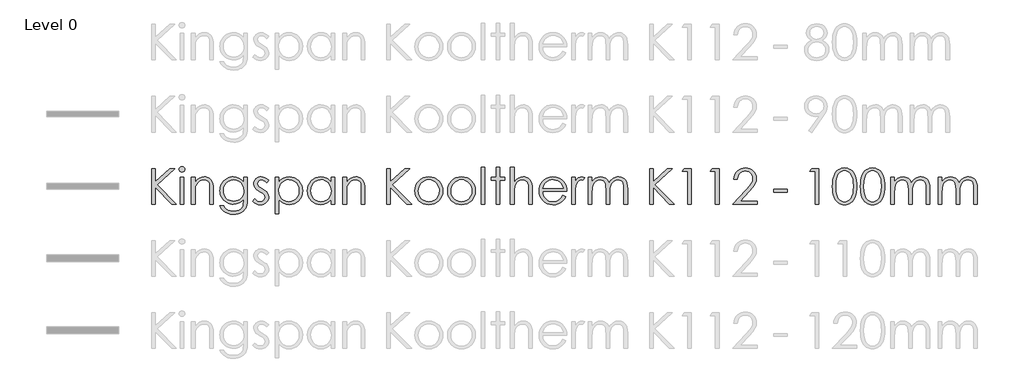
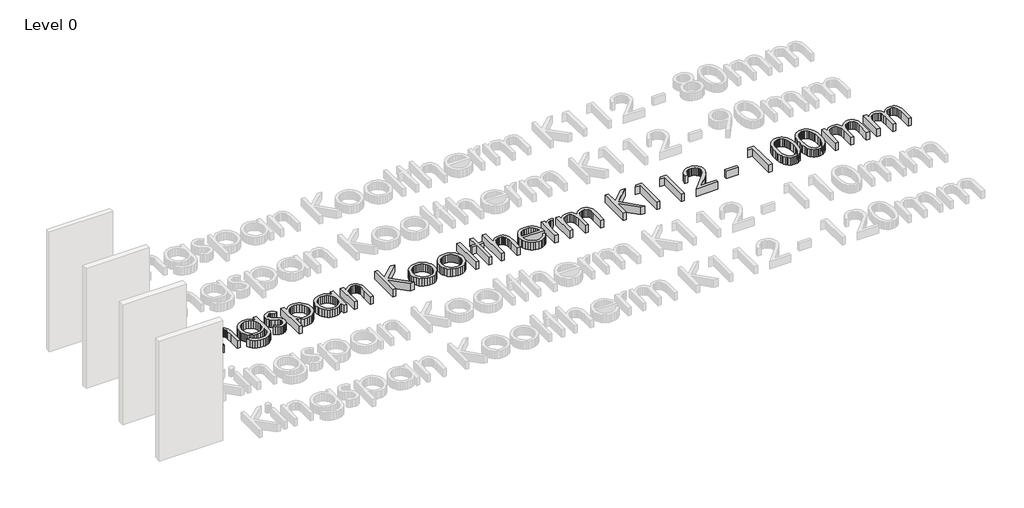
# One storey, part 6 of 14: 1 proxy.
"""IFC4 building model written with IfcOpenShell, lengths in millimetres."""

from ifc_helpers import new_model, si_unit, origin, origin_with_axes, place, context, project, spatial, polyline, outline, extrude, element, save

model = new_model("IFC4")

# Units and contexts
model_context = context("Model", 3, world=origin())
ifc_project = project(units=[si_unit("LENGTHUNIT", "METRE", prefix="MILLI")], contexts=[model_context])

# Site, building, storey
site = spatial("IfcSite", under=ifc_project)
building = spatial("IfcBuilding", under=site)
storey = spatial("IfcBuildingStorey", under=building, Name="Level 0", Elevation=0.0)

# Proxy
placement = place(None, origin())
element("IfcBuildingElementProxy", 1, Name="600mm KI_CenturyGothic", ObjectType="600mm KI_CenturyGothic", at=placement, inside=storey, context=model_context, shape_type="SweptSolid", body=[
    extrude(outline(polyline([(-3852.2663848, -3699.1034017), (-3792.944575, -3699.1034017), (-3792.944575, -3918.316027), (-3555.1938841, -3699.1034017), (-3471.6181051, -3699.1034017), (-3760.9664119, -3966.0515459), (-3441.9572002, -4292.3214999), (-3520.8984627, -4292.3214999), (-3792.944575, -4014.0960325), (-3792.944575, -4292.3214999), (-3852.2663848, -4292.3214999), (-3852.2663848, -3699.1034017)])), origin_with_axes(), (0.0, 0.0, 1.0), 150.0),
    extrude(outline(polyline([(-3348.1854852, -3669.4424967), (-3329.145347, -3672.7252792), (-3313.1176445, -3682.5736265), (-3302.226531, -3697.0178693), (-3298.5961598, -3714.088338), (-3302.226531, -3730.9270809), (-3313.1176445, -3745.2940817), (-3329.145347, -3755.142429), (-3348.1854852, -3758.4252115), (-3366.9938975, -3755.142429), (-3382.9443581, -3745.2940817), (-3393.8354717, -3730.9270809), (-3397.4658428, -3714.088338), (-3393.8354717, -3697.0178693), (-3382.9443581, -3682.5736265), (-3366.9938975, -3672.7252792), (-3348.1854852, -3669.4424967)])), origin_with_axes(), (0.0, 0.0, 1.0), 150.0),
    extrude(outline(polyline([(-3377.6919062, -3847.4079262), (-3318.3700964, -3847.4079262), (-3318.3700964, -4292.3214999), (-3377.6919062, -4292.3214999), (-3377.6919062, -3847.4079262)])), origin_with_axes(), (0.0, 0.0, 1.0), 150.0),
    extrude(outline(polyline([(-3189.8395084, -3847.4079262), (-3130.5176986, -3847.4079262), (-3130.5176986, -3926.5036726), (-3096.9946967, -3886.9944204), (-3060.0730495, -3859.303185), (-3019.7141359, -3842.9665147), (-2975.879335, -3837.5209579), (-2953.4357238, -3839.0995901), (-2932.2955704, -3843.8354865), (-2912.4588747, -3851.7286472), (-2893.9256368, -3862.7790723), (-2877.212412, -3876.5039994), (-2862.835756, -3892.4206667), (-2841.0921499, -3930.8292213), (-2833.6238199, -3955.2087086), (-2828.2892984, -3985.5551357), (-2824.0216812, -4064.1488095), (-2824.0216812, -4292.3214999), (-2883.343491, -4292.3214999), (-2883.343491, -4079.1337458), (-2883.343491, -3976.092998), (-2884.7290183, -3955.2956057), (-2889.8125035, -3937.2403023), (-2898.2849788, -3921.9270877), (-2910.1464442, -3909.355962), (-2924.7403432, -3899.5558909), (-2941.4101193, -3892.5558401), (-2980.977303, -3886.9557994), (-3005.3471351, -3889.1137461), (-3028.4038541, -3895.5875862), (-3050.1474602, -3906.3773197), (-3070.5779533, -3921.4829466), (-3088.6622225, -3939.7651482), (-3103.3671568, -3960.084606), (-3114.6927562, -3982.44132), (-3122.6390208, -4006.8352901), (-3128.5480292, -4053.9142525), (-3130.5176986, -4128.4141035), (-3130.5176986, -4292.3214999), (-3189.8395084, -4292.3214999), (-3189.8395084, -3847.4079262)])), origin_with_axes(), (0.0, 0.0, 1.0), 150.0),
    extrude(outline(polyline([(-2319.7862977, -3847.4079262), (-2260.4644879, -3847.4079262), (-2260.4644879, -4198.395301), (-2264.5196897, -4278.6496765), (-2269.588692, -4309.4499001), (-2276.6852953, -4334.0321474), (-2289.9371156, -4362.6454585), (-2307.2924139, -4387.7732271), (-2328.7511904, -4409.4154531), (-2354.3134448, -4427.5721366), (-2383.3226209, -4441.9343098), (-2415.122162, -4452.1930049), (-2449.7120682, -4458.348222), (-2487.0923395, -4460.3999611), (-2541.0458345, -4456.3833802), (-2589.206184, -4444.3336376), (-2630.260275, -4425.5059147), (-2662.8949946, -4401.1553932), (-2690.2000204, -4367.8061856), (-2715.2650299, -4321.9824048), (-2655.94322, -4321.9824048), (-2642.4355358, -4343.151524), (-2627.0933555, -4361.3951046), (-2609.9166791, -4376.7131468), (-2590.9055067, -4389.1056506), (-2569.7894914, -4398.6691682), (-2546.2982864, -4405.5002523), (-2492.1903075, -4410.9651195), (-2438.5071593, -4405.6354257), (-2415.083541, -4398.9733084), (-2393.93856, -4389.6463441), (-2359.6624492, -4365.6047903), (-2336.8567664, -4336.1176798), (-2329.3884364, -4317.4782342), (-2324.0539149, -4293.7697863), (-2319.7862977, -4231.1458835), (-2319.7862977, -4208.4367532), (-2354.757586, -4244.2190818), (-2396.6420279, -4270.6165148), (-2443.392712, -4286.8952536), (-2492.9627269, -4292.3214999), (-2522.4063889, -4290.4242447), (-2550.9521133, -4284.7324793), (-2578.5999001, -4275.2462036), (-2605.3497494, -4261.9654175), (-2630.1540674, -4245.4742634), (-2651.9652601, -4226.3568832), (-2670.7833277, -4204.6132772), (-2686.6082702, -4180.2434451), (-2699.1456025, -4153.9280817), (-2708.1008399, -4126.3478816), (-2713.4739824, -4097.5028447), (-2715.2650299, -4067.392971), (-2713.3967404, -4037.1044753), (-2707.7918722, -4007.8780563), (-2698.4504251, -3979.713714), (-2685.3723991, -3952.6114483), (-2668.9971079, -3927.4257483), (-2649.7638648, -3905.0111029), (-2627.67267, -3885.367512), (-2602.7235235, -3868.4949758), (-2575.9833294, -3854.943843), (-2548.5189922, -3845.2644624), (-2520.3305117, -3839.456834), (-2491.4178881, -3837.5209579), (-2444.5320306, -3842.4644421), (-2400.8903346, -3857.2948945), (-2359.6045177, -3883.8661218), (-2319.7862977, -3924.0319306), (-2319.7862977, -3847.4079262)]), holes=[polyline([(-2484.1571458, -3886.9557994), (-2529.0154023, -3892.9806707), (-2570.5908765, -3911.0552847), (-2606.2187212, -3939.7699758), (-2633.2340897, -3977.7150788), (-2650.2659375, -4021.9940208), (-2655.94322, -4069.7102292), (-2653.0080263, -4105.6229036), (-2644.2024452, -4138.2817613), (-2629.5264766, -4167.6868023), (-2608.9801206, -4193.8380266), (-2583.7606272, -4215.296803), (-2555.0652466, -4230.6245004), (-2522.8939786, -4239.8211189), (-2487.2468234, -4242.8866584), (-2451.3244937, -4239.845257), (-2419.1001219, -4230.7210528), (-2390.573708, -4215.5140459), (-2365.7452519, -4194.2242363), (-2345.6382095, -4167.9812872), (-2331.2760363, -4137.9148621), (-2322.6587323, -4104.024961), (-2319.7862977, -4066.3115838), (-2325.0773706, -4017.6105407), (-2340.9505892, -3974.3936754), (-2366.4983608, -3938.1672056), (-2400.8130926, -3910.4373492), (-2440.9982119, -3892.8261869), (-2484.1571458, -3886.9557994)])]), origin_with_axes(), (0.0, 0.0, 1.0), 150.0),
    extrude(outline(polyline([(-1904.5336289, -3898.6965743), (-1940.9918246, -3936.390641), (-1962.9575012, -3914.7628978), (-1984.6721416, -3899.3145098), (-2006.1357456, -3890.045477), (-2027.3483133, -3886.9557994), (-2052.181597, -3891.6289368), (-2073.2300256, -3905.6483489), (-2087.5970264, -3925.8857371), (-2092.3860267, -3949.212803), (-2088.4466878, -3970.7633042), (-2076.628671, -3991.2324183), (-2052.0657341, -4013.400855), (-2010.2006027, -4039.122421), (-1958.3326401, -4071.9888664), (-1939.8428507, -4087.8138088), (-1926.315856, -4103.2332311), (-1909.9791857, -4135.9065716), (-1904.5336289, -4172.4420092), (-1906.9474396, -4198.5884059), (-1914.1888714, -4222.6492701), (-1926.2579245, -4244.624602), (-1943.1545989, -4264.5144015), (-1963.6719892, -4281.0055557), (-1986.6031901, -4292.7849515), (-2011.9482016, -4299.852589), (-2039.7070237, -4302.2084682), (-2077.4397114, -4298.3270607), (-2113.3958344, -4286.6828383), (-2145.4512394, -4268.2027042), (-2171.4817731, -4243.8135617), (-2135.7959969, -4203.3387852), (-2114.0041146, -4224.9665283), (-2091.5749863, -4240.4149163), (-2068.5086121, -4249.6839491), (-2044.8049918, -4252.7736267), (-2013.637869, -4247.1349651), (-1987.4914724, -4230.2189802), (-1969.7644472, -4205.6560434), (-1963.8554388, -4177.0765256), (-1967.7561567, -4153.2860081), (-1979.4583106, -4132.2762005), (-2005.0253927, -4110.5712154), (-2050.2119275, -4083.7682622), (-2099.762632, -4053.1032121), (-2117.441381, -4037.9444814), (-2130.3890611, -4022.9016136), (-2146.3781427, -3990.7689666), (-2151.7078365, -3954.310771), (-2149.5305794, -3930.2643896), (-2142.9988078, -3908.3325063), (-2132.1125219, -3888.5151211), (-2116.8717217, -3870.812234), (-2098.309518, -3856.2473007), (-2077.4590218, -3845.8437769), (-2054.3202332, -3839.6016627), (-2028.8931521, -3837.5209579), (-1997.9481, -3841.3444339), (-1966.9064954, -3852.814862), (-1935.7683384, -3871.9322421), (-1904.5336289, -3898.6965743)])), origin_with_axes(), (0.0, 0.0, 1.0), 150.0),
    extrude(outline(polyline([(-1795.7769776, -3847.4079262), (-1736.4551678, -3847.4079262), (-1736.4551678, -3928.5119631), (-1700.9238754, -3888.2689124), (-1660.4490989, -3859.9211205), (-1614.9922173, -3843.1209986), (-1564.5146096, -3837.5209579), (-1520.0618732, -3841.7596094), (-1478.9305402, -3854.4755637), (-1441.1206107, -3875.668821), (-1406.6320845, -3905.3393811), (-1377.9077381, -3940.9768811), (-1357.3903478, -3980.070958), (-1345.0799137, -4022.6216116), (-1340.9764356, -4068.628842), (-1345.0412927, -4115.5291824), (-1357.235864, -4158.7508754), (-1377.5601494, -4198.293921), (-1406.014149, -4234.1583192), (-1440.2130179, -4263.9302594), (-1477.7719111, -4285.1959309), (-1518.6908288, -4297.9553339), (-1562.9697708, -4302.2084682), (-1612.6170277, -4296.743601), (-1658.0545988, -4280.3489992), (-1699.3211052, -4253.1019049), (-1736.4551678, -4215.07956), (-1736.4551678, -4450.5129928), (-1795.7769776, -4450.5129928), (-1795.7769776, -3847.4079262)]), holes=[polyline([(-1568.5311905, -3886.9557994), (-1602.5852307, -3890.2530647), (-1633.8392507, -3900.1448607), (-1662.2932503, -3916.6311872), (-1687.9472295, -3939.7120444), (-1709.1694525, -3967.6977647), (-1724.3281832, -3998.8986808), (-1733.4234216, -4033.3147926), (-1736.4551678, -4070.9461002), (-1731.048232, -4119.8016272), (-1714.8274246, -4163.4819442), (-1688.5265441, -4200.3263495), (-1652.8793888, -4228.6741414), (-1611.4390881, -4246.7487554), (-1567.7587711, -4252.7736267), (-1525.0632888, -4246.7101344), (-1485.0326535, -4228.5196576), (-1450.2544701, -4199.4187567), (-1423.3163435, -4160.6239924), (-1406.05277, -4115.9588407), (-1400.2982454, -4069.2467775), (-1405.9948385, -4022.3029886), (-1423.0846177, -3977.8695627), (-1449.8103289, -3939.5189395), (-1484.414718, -3910.8235589), (-1524.7157001, -3892.9227393), (-1568.5311905, -3886.9557994)])]), origin_with_axes(), (0.0, 0.0, 1.0), 150.0),
    extrude(outline(polyline([(-807.0801472, -3847.4079262), (-807.0801472, -4292.3214999), (-866.401957, -4292.3214999), (-866.401957, -4216.4699149), (-903.4780882, -4254.3184655), (-944.8797679, -4281.0441767), (-990.4525125, -4296.9173953), (-1040.0418379, -4302.2084682), (-1084.3159523, -4297.9553339), (-1125.2203871, -4285.1959309), (-1162.7551422, -4263.9302594), (-1196.9202178, -4234.1583192), (-1225.340424, -4198.293921), (-1245.6405713, -4158.7508754), (-1257.8206597, -4115.5291824), (-1261.8806892, -4068.628842), (-1257.7820388, -4022.6216116), (-1245.4860875, -3980.070958), (-1224.9928353, -3940.9768811), (-1196.3022822, -3905.3393811), (-1161.8475494, -3875.668821), (-1124.061758, -3854.4755637), (-1082.9449079, -3841.7596094), (-1038.4969991, -3837.5209579), (-987.7490446, -3843.1209986), (-942.0990581, -3859.9211205), (-921.2051134, -3872.6081091), (-901.6242816, -3888.2689124), (-866.401957, -3928.5119631), (-866.401957, -3847.4079262), (-807.0801472, -3847.4079262)]), holes=[polyline([(-1034.3259343, -3886.9557994), (-1078.1414247, -3892.9227393), (-1118.4424068, -3910.8235589), (-1153.0467959, -3939.5189395), (-1179.7725071, -3977.8695627), (-1196.8622863, -4022.3029886), (-1202.5588794, -4069.2467775), (-1196.8043548, -4115.9588407), (-1179.5407813, -4160.6239924), (-1152.6026548, -4199.4187567), (-1117.8244713, -4228.5196576), (-1077.6779731, -4246.7101344), (-1034.6349021, -4252.7736267), (-991.0125165, -4246.7487554), (-949.7460102, -4228.6741414), (-914.2726493, -4200.3263495), (-888.0297002, -4163.4819442), (-871.8088928, -4119.8016272), (-866.401957, -4070.9461002), (-869.4337032, -4033.3147926), (-878.5289416, -3998.8986808), (-893.6876723, -3967.6977647), (-914.9098953, -3939.7120444), (-940.5638746, -3916.6311872), (-969.0178742, -3900.1448607), (-1000.2718941, -3890.2530647), (-1034.3259343, -3886.9557994)])]), origin_with_axes(), (0.0, 0.0, 1.0), 150.0),
    extrude(outline(polyline([(-668.662591, -3847.4079262), (-609.3407811, -3847.4079262), (-609.3407811, -3926.5036726), (-575.8177792, -3886.9944204), (-538.896132, -3859.303185), (-498.5372184, -3842.9665147), (-454.7024175, -3837.5209579), (-432.2588064, -3839.0995901), (-411.1186529, -3843.8354865), (-391.2819572, -3851.7286472), (-372.7487193, -3862.7790723), (-356.0354946, -3876.5039994), (-341.6588385, -3892.4206667), (-319.9152324, -3930.8292213), (-312.4469024, -3955.2087086), (-307.1123809, -3985.5551357), (-302.8447637, -4064.1488095), (-302.8447637, -4292.3214999), (-362.1665735, -4292.3214999), (-362.1665735, -4079.1337458), (-362.1665735, -3976.092998), (-363.5521008, -3955.2956057), (-368.635586, -3937.2403023), (-377.1080613, -3921.9270877), (-388.9695267, -3909.355962), (-403.5634257, -3899.5558909), (-420.2332018, -3892.5558401), (-459.8003855, -3886.9557994), (-484.1702176, -3889.1137461), (-507.2269366, -3895.5875862), (-528.9705427, -3906.3773197), (-549.4010358, -3921.4829466), (-567.485305, -3939.7651482), (-582.1902393, -3960.084606), (-593.5158387, -3982.44132), (-601.4621033, -4006.8352901), (-607.3711117, -4053.9142525), (-609.3407811, -4128.4141035), (-609.3407811, -4292.3214999), (-668.662591, -4292.3214999), (-668.662591, -3847.4079262)])), origin_with_axes(), (0.0, 0.0, 1.0), 150.0),
    extrude(outline(polyline([(62.9730635, -3699.1034017), (122.2948734, -3699.1034017), (122.2948734, -3918.316027), (360.0455643, -3699.1034017), (443.6213432, -3699.1034017), (154.2730365, -3966.0515459), (473.2822481, -4292.3214999), (394.3409856, -4292.3214999), (122.2948734, -4014.0960325), (122.2948734, -4292.3214999), (62.9730635, -4292.3214999), (62.9730635, -3699.1034017)])), origin_with_axes(), (0.0, 0.0, 1.0), 150.0),
    extrude(outline(polyline([(760.1588128, -3837.5209579), (809.4681362, -3842.1458191), (854.3553585, -3856.0204025), (894.8204798, -3879.1447083), (930.8635, -3911.5187363), (957.7630055, -3946.7507161), (976.9769381, -3985.091684), (988.5052976, -4026.54164), (992.3480841, -4071.1005841), (988.283227, -4115.9153921), (976.0886558, -4157.8239721), (955.7643703, -4196.8263241), (927.3103707, -4232.9224481), (892.4742558, -4263.2350819), (853.0036246, -4284.8869632), (808.8984769, -4297.8780919), (760.1588128, -4302.2084682), (711.2839754, -4297.8780919), (667.0822753, -4284.8869632), (627.5537126, -4263.2350819), (592.6982872, -4232.9224481), (564.2442876, -4196.8263241), (543.9200022, -4157.8239721), (531.7254309, -4115.9153921), (527.6605738, -4071.1005841), (531.5033603, -4026.7347449), (543.0317198, -3985.4006518), (562.2456524, -3947.0983049), (589.145158, -3911.8277041), (625.2074886, -3879.3185026), (665.7305413, -3856.0976445), (710.7143161, -3842.1651295), (760.1588128, -3837.5209579)]), holes=[polyline([(760.004329, -3886.9557994), (725.7282181, -3890.3303067), (693.9624704, -3900.4538284), (664.7070856, -3917.3263647), (637.962064, -3940.9479154), (615.6584538, -3969.3584664), (599.7273037, -4000.5980035), (590.1686137, -4034.6665266), (586.9823836, -4071.5640357), (592.7948396, -4119.2995546), (610.2322075, -4163.6364281), (637.5758543, -4201.4270471), (673.1071466, -4229.5238028), (714.6439998, -4246.9611707), (760.004329, -4252.7736267), (805.3646581, -4246.9611707), (846.9015113, -4229.5238028), (882.4328037, -4201.4270471), (909.7764504, -4163.6364281), (927.2138183, -4119.2995546), (933.0262743, -4071.5640357), (929.8255614, -4034.6665266), (920.2234227, -4000.5980035), (904.2198583, -3969.3584664), (881.8148681, -3940.9479154), (854.9974321, -3917.3263647), (825.7565303, -3900.4538284), (794.0921625, -3890.3303067), (760.004329, -3886.9557994)])]), origin_with_axes(), (0.0, 0.0, 1.0), 150.0),
    extrude(outline(polyline([(1303.9420695, -3837.5209579), (1353.2513929, -3842.1458191), (1398.1386152, -3856.0204025), (1438.6037365, -3879.1447083), (1474.6467567, -3911.5187363), (1501.5462622, -3946.7507161), (1520.7601948, -3985.091684), (1532.2885543, -4026.54164), (1536.1313408, -4071.1005841), (1532.0664837, -4115.9153921), (1519.8719125, -4157.8239721), (1499.547627, -4196.8263241), (1471.0936274, -4232.9224481), (1436.2575126, -4263.2350819), (1396.7868813, -4284.8869632), (1352.6817336, -4297.8780919), (1303.9420695, -4302.2084682), (1255.0672321, -4297.8780919), (1210.865532, -4284.8869632), (1171.3369693, -4263.2350819), (1136.4815439, -4232.9224481), (1108.0275443, -4196.8263241), (1087.7032589, -4157.8239721), (1075.5086876, -4115.9153921), (1071.4438305, -4071.1005841), (1075.286617, -4026.7347449), (1086.8149766, -3985.4006518), (1106.0289091, -3947.0983049), (1132.9284147, -3911.8277041), (1168.9907453, -3879.3185026), (1209.5137981, -3856.0976445), (1254.4975728, -3842.1651295), (1303.9420695, -3837.5209579)]), holes=[polyline([(1303.7875857, -3886.9557994), (1269.5114748, -3890.3303067), (1237.7457271, -3900.4538284), (1208.4903423, -3917.3263647), (1181.7453207, -3940.9479154), (1159.4417105, -3969.3584664), (1143.5105604, -4000.5980035), (1133.9518704, -4034.6665266), (1130.7656404, -4071.5640357), (1136.5780963, -4119.2995546), (1154.0154643, -4163.6364281), (1181.359111, -4201.4270471), (1216.8904033, -4229.5238028), (1258.4272565, -4246.9611707), (1303.7875857, -4252.7736267), (1349.1479149, -4246.9611707), (1390.684768, -4229.5238028), (1426.2160604, -4201.4270471), (1453.5597071, -4163.6364281), (1470.997075, -4119.2995546), (1476.809531, -4071.5640357), (1473.6088181, -4034.6665266), (1464.0066795, -4000.5980035), (1448.003115, -3969.3584664), (1425.5981249, -3940.9479154), (1398.7806889, -3917.3263647), (1369.539787, -3900.4538284), (1337.8754193, -3890.3303067), (1303.7875857, -3886.9557994)])]), origin_with_axes(), (0.0, 0.0, 1.0), 150.0),
    extrude(outline(polyline([(1635.0010238, -3679.3294651), (1694.3228337, -3679.3294651), (1694.3228337, -4292.3214999), (1635.0010238, -4292.3214999), (1635.0010238, -3679.3294651)])), origin_with_axes(), (0.0, 0.0, 1.0), 150.0),
    extrude(outline(polyline([(1882.1752314, -3679.3294651), (1941.4970413, -3679.3294651), (1941.4970413, -3847.4079262), (2020.5927877, -3847.4079262), (2020.5927877, -3896.8427677), (1941.4970413, -3896.8427677), (1941.4970413, -4292.3214999), (1882.1752314, -4292.3214999), (1882.1752314, -3896.8427677), (1803.079485, -3896.8427677), (1803.079485, -3847.4079262), (1882.1752314, -3847.4079262), (1882.1752314, -3679.3294651)])), origin_with_axes(), (0.0, 0.0, 1.0), 150.0),
    extrude(outline(polyline([(2119.4624707, -3679.3294651), (2178.7842806, -3679.3294651), (2178.7842806, -3928.0485114), (2212.5583188, -3888.3461544), (2249.6151394, -3860.0756044), (2289.9161216, -3843.1596195), (2333.4226442, -3837.5209579), (2355.8662553, -3839.0995901), (2377.0064088, -3843.8354865), (2396.8431044, -3851.7286472), (2415.3763424, -3862.7790723), (2432.0895671, -3876.4895166), (2446.4662232, -3892.3627352), (2468.2098293, -3930.5974955), (2475.6781593, -3954.9045684), (2481.0126808, -3985.2654784), (2485.280298, -4064.1488095), (2485.280298, -4292.3214999), (2425.9584882, -4292.3214999), (2425.9584882, -4079.1337458), (2424.5681332, -4014.752589), (2420.3970685, -3976.092998), (2406.879729, -3937.2403023), (2397.1665551, -3921.9270877), (2385.4837117, -3909.355962), (2371.840854, -3899.5558909), (2356.2476374, -3892.5558401), (2319.2101273, -3886.9557994), (2296.3416854, -3889.1137461), (2274.6994594, -3895.5875862), (2254.2834492, -3906.3773197), (2235.0936547, -3921.4829466), (2218.1052556, -3939.7651482), (2204.2934312, -3960.084606), (2193.6581816, -3982.44132), (2186.1995068, -4006.8352901), (2180.6380871, -4053.6825267), (2178.7842806, -4128.4141035), (2178.7842806, -4292.3214999), (2119.4624707, -4292.3214999), (2119.4624707, -3679.3294651)])), origin_with_axes(), (0.0, 0.0, 1.0), 150.0),
    extrude(outline(polyline([(2991.0605203, -4144.0169753), (3038.950523, -4169.1978477), (3013.3255094, -4211.0822896), (2984.0315038, -4244.0452875), (2950.952643, -4269.1296074), (2913.9730643, -4287.3780157), (2872.4941426, -4298.5008551), (2825.9172528, -4302.2084682), (2774.4258447, -4297.7767119), (2728.8627554, -4284.481443), (2689.227985, -4262.3226615), (2655.5215335, -4231.3003674), (2628.6220279, -4194.6973431), (2609.4080954, -4155.7963712), (2597.8797358, -4114.5974515), (2594.0369493, -4071.1005841), (2597.3197318, -4030.2202874), (2607.1680791, -3991.618628), (2623.5819913, -3955.2956057), (2646.5614684, -3921.2512207), (2682.7493173, -3884.6192308), (2724.5758277, -3858.4535236), (2772.0409998, -3842.7540993), (2825.1448334, -3837.5209579), (2879.7935059, -3842.8892727), (2928.6490329, -3858.9942172), (2971.7114143, -3885.8357913), (3008.9806503, -3923.4139951), (3030.4539096, -3955.585263), (3045.9022976, -3991.541386), (3055.3258143, -4031.2823641), (3058.7244596, -4074.8081972), (2653.3587591, -4074.8081972), (2657.095338, -4112.0629503), (2666.6057518, -4145.8128504), (2681.8900007, -4176.0578975), (2702.9480845, -4202.7980916), (2728.3124066, -4224.6623882), (2756.5153699, -4240.2797429), (2787.5569744, -4249.6501557), (2821.4372203, -4252.7736267), (2854.9602222, -4249.761191), (2887.5563208, -4240.7238841), (2917.2944677, -4226.6851615), (2942.2436143, -4208.668479), (2965.725164, -4182.5027719), (2991.0605203, -4144.0169753)]), holes=[polyline([(2999.4026498, -4025.3733557), (2984.9777175, -3982.8516678), (2965.1844704, -3949.8307385), (2939.0766947, -3924.3022774), (2905.7081767, -3904.257994), (2867.7630738, -3891.2813481), (2827.9255433, -3886.9557994), (2795.503239, -3889.6689226), (2765.4368139, -3897.808292), (2737.726268, -3911.3739077), (2712.3716012, -3930.3657696), (2695.8321708, -3948.179692), (2681.4362043, -3969.9522638), (2669.1837016, -3995.683485), (2659.0746627, -4025.3733557), (2999.4026498, -4025.3733557)])]), origin_with_axes(), (0.0, 0.0, 1.0), 150.0),
    extrude(outline(polyline([(3137.820206, -3847.4079262), (3197.1420159, -3847.4079262), (3197.1420159, -3911.8277041), (3222.6897875, -3878.7874643), (3249.589293, -3855.6728138), (3277.7632906, -3842.0589219), (3307.1345382, -3837.5209579), (3330.4616041, -3841.305813), (3355.3335087, -3852.6603781), (3325.8270877, -3894.6799934), (3297.2475699, -3886.9557994), (3270.8308265, -3892.9034288), (3245.3409863, -3910.7463169), (3223.2884125, -3941.1023993), (3207.183468, -3984.5896114), (3199.6523789, -4042.7141712), (3197.1420159, -4140.1548783), (3197.1420159, -4292.3214999), (3137.820206, -4292.3214999), (3137.820206, -3847.4079262)])), origin_with_axes(), (0.0, 0.0, 1.0), 150.0),
    extrude(outline(polyline([(3414.6553185, -3847.4079262), (3473.9771284, -3847.4079262), (3473.9771284, -3923.5684789), (3503.5607913, -3887.0716623), (3533.9168737, -3861.9294109), (3577.3268439, -3843.6230712), (3622.8995884, -3837.5209579), (3653.7384329, -3840.668567), (3682.9165757, -3850.1113941), (3708.6767627, -3864.7873627), (3729.2617397, -3883.634396), (3746.0425511, -3909.0663047), (3760.3902414, -3943.4968994), (3775.16759, -3919.0981017), (3791.6925376, -3897.808292), (3809.965084, -3879.6274704), (3829.9852293, -3864.5556369), (3851.2798666, -3852.7279648), (3873.375889, -3844.2796277), (3896.2732965, -3839.2106253), (3919.9720892, -3837.5209579), (3962.3006723, -3843.3334139), (3981.4952943, -3850.5989839), (3999.3768034, -3860.7707818), (4015.4914031, -3873.53984), (4029.385297, -3888.5971907), (4050.5109676, -3925.5767694), (4057.8103309, -3948.9521114), (4063.0241619, -3977.5219739), (4067.1952266, -4050.2452603), (4067.1952266, -4292.3214999), (4007.8734168, -4292.3214999), (4007.8734168, -4046.6921311), (4005.4209852, -3985.5744462), (3998.0636904, -3947.1272706), (3984.7587663, -3922.6608861), (3964.4634466, -3903.4855746), (3938.3942919, -3891.0882432), (3907.7678627, -3886.9557994), (3888.1194443, -3888.5054659), (3869.3399976, -3893.1544651), (3834.3880198, -3911.7504621), (3805.6540182, -3940.6968791), (3785.8800816, -3977.9468046), (3779.1889985, -4002.1042213), (3774.4096535, -4033.1747916), (3770.5861775, -4116.0553931), (3770.5861775, -4292.3214999), (3711.2643677, -4292.3214999), (3711.2643677, -4061.9860352), (3708.850557, -3993.530366), (3701.6091252, -3951.2983353), (3688.3621325, -3925.0553863), (3667.9316394, -3904.5669617), (3641.6114484, -3891.35859), (3610.6953619, -3886.9557994), (3573.7544042, -3892.9999812), (3539.2465676, -3911.1325266), (3510.2808401, -3939.499629), (3489.9662099, -3976.2474819), (3477.9743988, -4028.0768236), (3473.9771284, -4101.6883923), (3473.9771284, -4292.3214999), (3414.6553185, -4292.3214999), (3414.6553185, -3847.4079262)])), origin_with_axes(), (0.0, 0.0, 1.0), 150.0),
    extrude(outline(polyline([(4433.0130538, -3699.1034017), (4492.3348637, -3699.1034017), (4492.3348637, -3918.316027), (4730.0855546, -3699.1034017), (4813.6613335, -3699.1034017), (4524.3130268, -3966.0515459), (4843.3222385, -4292.3214999), (4764.3809759, -4292.3214999), (4492.3348637, -4014.0960325), (4492.3348637, -4292.3214999), (4433.0130538, -4292.3214999), (4433.0130538, -3699.1034017)])), origin_with_axes(), (0.0, 0.0, 1.0), 150.0),
    extrude(outline(polyline([(5010.6282802, -3699.1034017), (5125.1008351, -3699.1034017), (5125.1008351, -4292.3214999), (5065.7790253, -4292.3214999), (5065.7790253, -3748.5382432), (4976.7963106, -3748.5382432), (5010.6282802, -3699.1034017)])), origin_with_axes(), (0.0, 0.0, 1.0), 150.0),
    extrude(outline(polyline([(5475.3157905, -3699.1034017), (5589.7883454, -3699.1034017), (5589.7883454, -4292.3214999), (5530.4665356, -4292.3214999), (5530.4665356, -3748.5382432), (5441.4838208, -3748.5382432), (5475.3157905, -3699.1034017)])), origin_with_axes(), (0.0, 0.0, 1.0), 150.0),
    extrude(outline(polyline([(5896.2843628, -3877.0688311), (5836.962553, -3877.0688311), (5841.4474131, -3837.8106152), (5852.5847353, -3802.2213914), (5870.3745196, -3770.3011597), (5894.816766, -3742.0499202), (5924.2121517, -3718.9352697), (5956.8613542, -3702.4248051), (5992.7643733, -3692.5185263), (6031.9212092, -3689.2164334), (6070.3925229, -3692.5136987), (6105.0113948, -3702.4054946), (6135.777825, -3718.8918211), (6162.6918135, -3741.9726783), (6184.5561101, -3769.533568), (6200.1734648, -3799.459992), (6209.5438776, -3831.7519505), (6212.6673485, -3866.4094434), (6206.5845458, -3915.2070389), (6188.3361375, -3960.8763359), (6152.5538088, -4012.763609), (6093.869245, -4080.215133), (5941.084688, -4242.8866584), (6222.5543169, -4242.8866584), (6222.5543169, -4292.3214999), (5817.1886164, -4292.3214999), (6043.1985325, -4051.6356152), (6099.9327373, -3986.1151397), (6132.6446988, -3940.0210121), (6148.1703288, -3902.6552237), (6153.3455387, -3863.3197658), (6151.0958672, -3838.7133804), (6144.3468527, -3815.8739043), (6133.0984952, -3794.8013375), (6117.3507947, -3775.4956802), (6098.3396223, -3759.3762529), (6077.3008489, -3747.8623762), (6054.2344746, -3740.9540502), (6029.1404994, -3738.6512749), (6002.8058255, -3740.9250845), (5978.7980651, -3747.7465133), (5957.1172181, -3759.1155613), (5937.7632845, -3775.0322286), (5921.5279943, -3795.0523738), (5909.2030773, -3818.731856), (5900.7885334, -3846.0706751), (5896.2843628, -3877.0688311)])), origin_with_axes(), (0.0, 0.0, 1.0), 150.0),
    extrude(outline(polyline([(6499.3894294, -4045.1472923), (6726.7897004, -4045.1472923), (6726.7897004, -4094.5821338), (6499.3894294, -4094.5821338), (6499.3894294, -4045.1472923)])), origin_with_axes(), (0.0, 0.0, 1.0), 150.0),
    extrude(outline(polyline([(7136.3264656, -3699.1034017), (7250.7990205, -3699.1034017), (7250.7990205, -4292.3214999), (7191.4772106, -4292.3214999), (7191.4772106, -3748.5382432), (7102.4944959, -3748.5382432), (7136.3264656, -3699.1034017)])), origin_with_axes(), (0.0, 0.0, 1.0), 150.0),
    extrude(outline(polyline([(7478.1992914, -3995.8669347), (7479.7779236, -3941.4355052), (7484.51382, -3893.5406748), (7492.4069808, -3852.1824436), (7503.4574058, -3817.3608116), (7517.3850931, -3787.7192172), (7533.9100406, -3761.9010988), (7553.0322483, -3739.9064564), (7574.7517163, -3721.73529), (7598.4456813, -3707.5082902), (7623.4913804, -3697.3461475), (7649.8888133, -3691.2488619), (7677.6379802, -3689.2164334), (7705.8409435, -3691.2633448), (7732.6728624, -3697.404079), (7758.1337368, -3707.638636), (7782.2235668, -3721.9670159), (7804.4064864, -3740.3843909), (7824.1466297, -3762.8859335), (7841.4439966, -3789.4716437), (7856.2985871, -3820.1415214), (7868.2276392, -3855.6583309), (7876.7483907, -3896.7848363), (7881.8608416, -3943.5210375), (7883.5649919, -3995.8669347), (7881.8849797, -4048.0535203), (7876.8449431, -4094.6207548), (7868.4448822, -4135.5686382), (7856.6847968, -4170.8971704), (7841.9750349, -4201.4222195), (7824.7259442, -4227.9596535), (7804.9375247, -4250.5094723), (7782.6097765, -4269.071676), (7758.3509797, -4283.5690226), (7732.7694148, -4293.9242701), (7705.8650816, -4300.1374187), (7677.6379802, -4302.2084682), (7649.9129514, -4300.2001778), (7623.5879328, -4294.1753064), (7598.6629243, -4284.1338543), (7575.137926, -4270.0758212), (7553.5632867, -4252.0398282), (7534.4893551, -4230.0644964), (7517.9161314, -4204.1498255), (7503.8436155, -4174.2958158), (7492.6242237, -4139.2762513), (7484.6103725, -4097.8649163), (7479.8020617, -4050.0618107), (7478.1992914, -3995.8669347)]), holes=[polyline([(7537.5211013, -3995.7124508), (7541.9045814, -4084.038609), (7547.3839315, -4119.0195525), (7555.0550216, -4147.8790723), (7564.8695756, -4172.1185586), (7576.7793172, -4193.2394015), (7590.7842464, -4211.2416011), (7606.8843633, -4226.1251574), (7642.1839298, -4246.1115094), (7660.586822, -4251.1080973), (7679.4917868, -4252.7736267), (7698.4836487, -4251.1418907), (7716.8382647, -4246.2466828), (7751.6357586, -4226.665851), (7767.3931143, -4211.9898824), (7781.1421796, -4194.0697524), (7792.8829545, -4172.9054608), (7802.6154389, -4148.4970078), (7812.0775766, -4115.1381451), (7818.8362463, -4078.5544313), (7824.2431821, -3995.7124508), (7819.4155608, -3914.1063413), (7813.3810343, -3879.4150551), (7804.9326971, -3848.7982811), (7794.3505514, -3822.135329), (7781.914599, -3799.3055082), (7767.6248402, -3780.3088186), (7751.4812747, -3765.1452603), (7716.413434, -3745.2747712), (7698.1843362, -3740.307149), (7679.4917868, -3738.6512749), (7660.4757867, -3740.307149), (7642.0487564, -3745.2747712), (7606.9616052, -3765.1452603), (7591.0159723, -3779.9564022), (7577.088285, -3797.8958428), (7565.1785434, -3818.9635819), (7555.2867474, -3843.1596195), (7547.5142772, -3872.0143117), (7541.9625128, -3907.0580143), (7537.5211013, -3995.7124508)])]), origin_with_axes(), (0.0, 0.0, 1.0), 150.0),
    extrude(outline(polyline([(7942.8868017, -3995.8669347), (7944.4654339, -3941.4355052), (7949.2013303, -3893.5406748), (7957.094491, -3852.1824436), (7968.1449161, -3817.3608116), (7982.0726034, -3787.7192172), (7998.5975509, -3761.9010988), (8017.7197586, -3739.9064564), (8039.4392266, -3721.73529), (8063.1331916, -3707.5082902), (8088.1788906, -3697.3461475), (8114.5763236, -3691.2488619), (8142.3254905, -3689.2164334), (8170.5284538, -3691.2633448), (8197.3603726, -3697.404079), (8222.8212471, -3707.638636), (8246.9110771, -3721.9670159), (8269.0939967, -3740.3843909), (8288.8341399, -3762.8859335), (8306.1315069, -3789.4716437), (8320.9860974, -3820.1415214), (8332.9151495, -3855.6583309), (8341.435901, -3896.7848363), (8346.5483519, -3943.5210375), (8348.2525022, -3995.8669347), (8346.57249, -4048.0535203), (8341.5324534, -4094.6207548), (8333.1323925, -4135.5686382), (8321.3723071, -4170.8971704), (8306.6625452, -4201.4222195), (8289.4134545, -4227.9596535), (8269.625035, -4250.5094723), (8247.2972868, -4269.071676), (8223.03849, -4283.5690226), (8197.4569251, -4293.9242701), (8170.5525919, -4300.1374187), (8142.3254905, -4302.2084682), (8114.6004617, -4300.2001778), (8088.2754431, -4294.1753064), (8063.3504346, -4284.1338543), (8039.8254363, -4270.0758212), (8018.2507969, -4252.0398282), (7999.1768654, -4230.0644964), (7982.6036417, -4204.1498255), (7968.5311258, -4174.2958158), (7957.311734, -4139.2762513), (7949.2978827, -4097.8649163), (7944.489572, -4050.0618107), (7942.8868017, -3995.8669347)]), holes=[polyline([(8002.2086116, -3995.7124508), (8006.5920916, -4084.038609), (8012.0714418, -4119.0195525), (8019.7425319, -4147.8790723), (8029.5570859, -4172.1185586), (8041.4668275, -4193.2394015), (8055.4717567, -4211.2416011), (8071.5718736, -4226.1251574), (8106.8714401, -4246.1115094), (8125.2743323, -4251.1080973), (8144.179297, -4252.7736267), (8163.171159, -4251.1418907), (8181.525775, -4246.2466828), (8216.3232689, -4226.665851), (8232.0806246, -4211.9898824), (8245.8296899, -4194.0697524), (8257.5704648, -4172.9054608), (8267.3029492, -4148.4970078), (8276.7650868, -4115.1381451), (8283.5237566, -4078.5544313), (8288.9306924, -3995.7124508), (8284.1030711, -3914.1063413), (8278.0685446, -3879.4150551), (8269.6202074, -3848.7982811), (8259.0380616, -3822.135329), (8246.6021093, -3799.3055082), (8232.3123504, -3780.3088186), (8216.168785, -3765.1452603), (8181.1009443, -3745.2747712), (8162.8718465, -3740.307149), (8144.179297, -3738.6512749), (8125.163297, -3740.307149), (8106.7362667, -3745.2747712), (8071.6491155, -3765.1452603), (8055.7034825, -3779.9564022), (8041.7757953, -3797.8958428), (8029.8660536, -3818.9635819), (8019.9742577, -3843.1596195), (8012.2017875, -3872.0143117), (8006.6500231, -3907.0580143), (8002.2086116, -3995.7124508)])]), origin_with_axes(), (0.0, 0.0, 1.0), 150.0),
    extrude(outline(polyline([(8447.1221852, -3847.4079262), (8506.4439951, -3847.4079262), (8506.4439951, -3923.5684789), (8536.027658, -3887.0716623), (8566.3837404, -3861.9294109), (8609.7937106, -3843.6230712), (8655.3664551, -3837.5209579), (8686.2052996, -3840.668567), (8715.3834424, -3850.1113941), (8741.1436294, -3864.7873627), (8761.7286063, -3883.634396), (8778.5094178, -3909.0663047), (8792.8571081, -3943.4968994), (8807.6344567, -3919.0981017), (8824.1594042, -3897.808292), (8842.4319506, -3879.6274704), (8862.4520959, -3864.5556369), (8883.7467332, -3852.7279648), (8905.8427557, -3844.2796277), (8928.7401632, -3839.2106253), (8952.4389559, -3837.5209579), (8994.7675389, -3843.3334139), (9013.962161, -3850.5989839), (9031.8436701, -3860.7707818), (9047.9582698, -3873.53984), (9061.8521637, -3888.5971907), (9082.9778343, -3925.5767694), (9090.2771976, -3948.9521114), (9095.4910285, -3977.5219739), (9099.6620933, -4050.2452603), (9099.6620933, -4292.3214999), (9040.3402835, -4292.3214999), (9040.3402835, -4046.6921311), (9037.8878519, -3985.5744462), (9030.5305571, -3947.1272706), (9017.225633, -3922.6608861), (8996.9303133, -3903.4855746), (8970.8611585, -3891.0882432), (8940.2347294, -3886.9557994), (8920.5863109, -3888.5054659), (8901.8068643, -3893.1544651), (8866.8548865, -3911.7504621), (8838.1208849, -3940.6968791), (8818.3469483, -3977.9468046), (8811.6558652, -4002.1042213), (8806.8765202, -4033.1747916), (8803.0530442, -4116.0553931), (8803.0530442, -4292.3214999), (8743.7312343, -4292.3214999), (8743.7312343, -4061.9860352), (8741.3174237, -3993.530366), (8734.0759919, -3951.2983353), (8720.8289992, -3925.0553863), (8700.3985061, -3904.5669617), (8674.0783151, -3891.35859), (8643.1622286, -3886.9557994), (8606.2212709, -3892.9999812), (8571.7134342, -3911.1325266), (8542.7477068, -3939.499629), (8522.4330766, -3976.2474819), (8510.4412654, -4028.0768236), (8506.4439951, -4101.6883923), (8506.4439951, -4292.3214999), (8447.1221852, -4292.3214999), (8447.1221852, -3847.4079262)])), origin_with_axes(), (0.0, 0.0, 1.0), 150.0),
    extrude(outline(polyline([(9238.0796495, -3847.4079262), (9297.4014594, -3847.4079262), (9297.4014594, -3923.5684789), (9326.9851223, -3887.0716623), (9357.3412047, -3861.9294109), (9400.7511749, -3843.6230712), (9446.3239194, -3837.5209579), (9477.1627639, -3840.668567), (9506.3409067, -3850.1113941), (9532.1010937, -3864.7873627), (9552.6860706, -3883.634396), (9569.4668821, -3909.0663047), (9583.8145724, -3943.4968994), (9598.591921, -3919.0981017), (9615.1168685, -3897.808292), (9633.389415, -3879.6274704), (9653.4095602, -3864.5556369), (9674.7041975, -3852.7279648), (9696.80022, -3844.2796277), (9719.6976275, -3839.2106253), (9743.3964202, -3837.5209579), (9785.7250032, -3843.3334139), (9804.9196253, -3850.5989839), (9822.8011344, -3860.7707818), (9838.9157341, -3873.53984), (9852.809628, -3888.5971907), (9873.9352986, -3925.5767694), (9881.2346619, -3948.9521114), (9886.4484928, -3977.5219739), (9890.6195576, -4050.2452603), (9890.6195576, -4292.3214999), (9831.2977478, -4292.3214999), (9831.2977478, -4046.6921311), (9828.8453162, -3985.5744462), (9821.4880214, -3947.1272706), (9808.1830973, -3922.6608861), (9787.8877776, -3903.4855746), (9761.8186229, -3891.0882432), (9731.1921937, -3886.9557994), (9711.5437752, -3888.5054659), (9692.7643286, -3893.1544651), (9657.8123508, -3911.7504621), (9629.0783492, -3940.6968791), (9609.3044126, -3977.9468046), (9602.6133295, -4002.1042213), (9597.8339845, -4033.1747916), (9594.0105085, -4116.0553931), (9594.0105085, -4292.3214999), (9534.6886987, -4292.3214999), (9534.6886987, -4061.9860352), (9532.274888, -3993.530366), (9525.0334562, -3951.2983353), (9511.7864635, -3925.0553863), (9491.3559704, -3904.5669617), (9465.0357794, -3891.35859), (9434.1196929, -3886.9557994), (9397.1787352, -3892.9999812), (9362.6708986, -3911.1325266), (9333.7051711, -3939.499629), (9313.3905409, -3976.2474819), (9301.3987298, -4028.0768236), (9297.4014594, -4101.6883923), (9297.4014594, -4292.3214999), (9238.0796495, -4292.3214999), (9238.0796495, -3847.4079262)])), origin_with_axes(), (0.0, 0.0, 1.0), 150.0),
])

save(model, "model.ifc")
